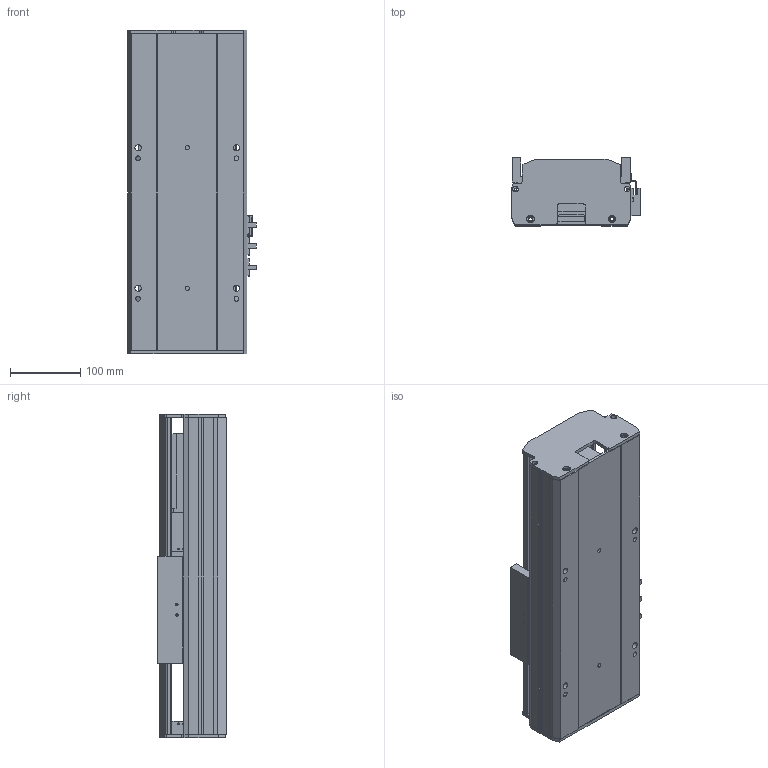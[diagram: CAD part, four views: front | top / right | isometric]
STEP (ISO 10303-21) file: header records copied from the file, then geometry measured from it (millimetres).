
FILE_DESCRIPTION (( 'STEP AP203' ), '1' );
FILE_NAME ('Y170-D10-S50-M-P400W.STEP', '2020-01-22T12:13:37', ( '微软用户' ), ( '微软中国' ), 'SwSTEP 2.0', 'SolidWorks 2017', '' );
FILE_SCHEMA (( 'CONFIG_CONTROL_DESIGN' ));
Length unit declared in the file: millimetre
Products named in the file (12): Y170-D10-S50-M-P400W; Y170耜裔--準---; Y170--雄赽釱-梓--; 170--掛极-M; Y170嘐隅傷-M; Y170耜裔--準---M; san松下电机400不带刹车----; YD-Y100-135-新外置传感挡片(通用）; Y170-赻蚕傷; Y100-135俋离換覜ん; Y170-陔遴奻裔-M; 135-盓傅釱-FK15
Assembly tree (13 placements, depth 2):
  Y170-D10-S50-M-P400W
    YD-Y100-135-新外置传感挡片(通用）
    Y100-135俋离換覜ん  x3
    135-盓傅釱-FK15
    Y170耜裔--準---
    Y170--雄赽釱-梓--
    170--掛极-M
    Y170嘐隅傷-M
    Y170耜裔--準---M
    san松下电机400不带刹车----
    Y170-赻蚕傷
    Y170-陔遴奻裔-M
Bounding box: 183.5 x 97 x 461 mm (x, y, z)
Volume: 2860447.1 mm3; surface area: 891698.1 mm2
Topology: 13 solids, 13 shells, 917 faces, 2486 edges, 1648 vertices
Faces by surface type: plane 484, cylinder 431, torus 2
Entity records: 28860 total; most frequent: DIRECTION 4880, CARTESIAN_POINT 4853, ORIENTED_EDGE 4636, EDGE_CURVE 2318, AXIS2_PLACEMENT_3D 1715, VERTEX_POINT 1536, VECTOR 1450, LINE 1450
